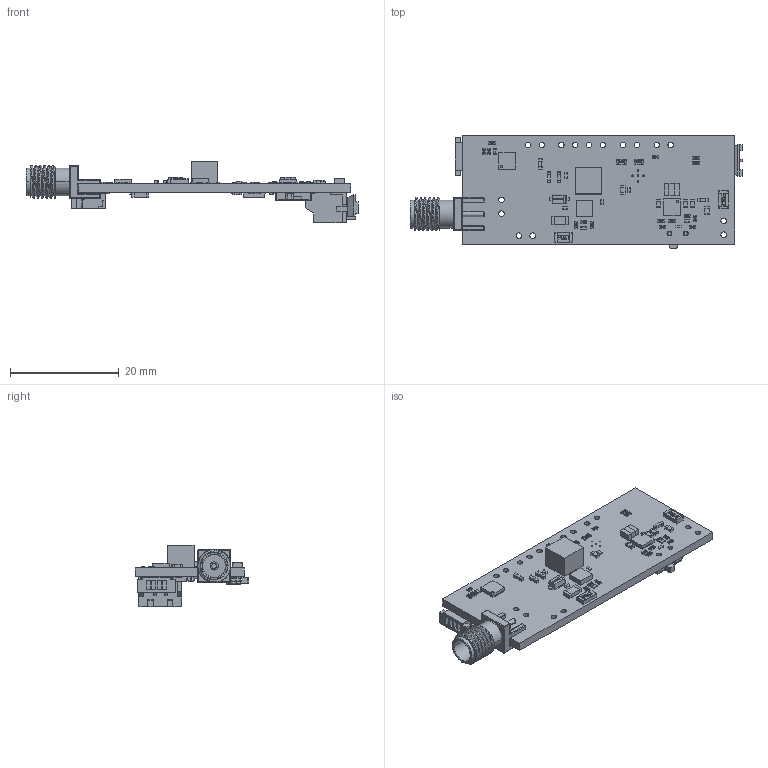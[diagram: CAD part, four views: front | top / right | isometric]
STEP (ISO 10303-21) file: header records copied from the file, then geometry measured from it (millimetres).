
FILE_DESCRIPTION(('KiCad electronic assembly'),'2;1');
FILE_NAME('WPT-02-RECEIVER_2020-03-09.step','2020-03-09T08:06:31',( 'An Author'),('A Company'),'Open CASCADE STEP processor 6.9', 'KiCad to STEP converter','Unknown');
FILE_SCHEMA(('AUTOMOTIVE_DESIGN { 1 0 10303 214 1 1 1 1 }'));
Length unit declared in the file: millimetre
Products named in the file (44): Open CASCADE STEP translator 6.9 1; QFN-20-1EP_4x4mm_Pitch0.5mm_Height1.0mm; SOLID; SOD-323; SHELL; S2B-PH-SM4-TB; PHR-2; cg0402mlc; DFN-10-1EP_3x3mm_Pitch0.5mm; QFN-16-1EP_3x3mm_Pitch0.5mm; CUS-12TB; COMPOUND; R_0402; R_0603; R_1206; DFE252012P; NR5040; C_0805; SOD-123F; SM04B-SRSS-TB; SHR-04V-S-B; C_0603; C_0402; C_1206; 620-SMA-02-112-TGG
Assembly tree (83 placements, depth 3):
  Open CASCADE STEP translator 6.9 1
    QFN-20-1EP_4x4mm_Pitch0.5mm_Height1.0mm
      SOLID
    SOD-323
      SHELL
    S2B-PH-SM4-TB
      SOLID
    PHR-2
      SOLID
    cg0402mlc
      SOLID
    DFN-10-1EP_3x3mm_Pitch0.5mm  x2
      SOLID
    QFN-16-1EP_3x3mm_Pitch0.5mm
      SOLID
    CUS-12TB
      COMPOUND
    R_0402  x18
      SOLID
    R_0603  x4
      SOLID
    R_1206  x2
      SOLID
    DFE252012P
      COMPOUND
    NR5040
      SOLID
    C_0805  x5
      SOLID
    SOD-123F
      COMPOUND
    SM04B-SRSS-TB
      SOLID
    SHR-04V-S-B
      SOLID
    C_0603  x7
      SOLID
    C_0402  x8
      SOLID
    C_1206  x2
      SOLID
    620-SMA-02-112-TGG
      SOLID
    COMPOUND
Bounding box: 60.98 x 20.85 x 11.3 mm (x, y, z)
Volume: 2353.5 mm3; surface area: 4315.9 mm2
Topology: 63 solids, 143 shells, 4100 faces, 10656 edges, 6813 vertices
Faces by surface type: plane 2619, bspline 687, cylinder 571, sphere 202, torus 17, cone 4
Full cylindrical faces by diameter (mm): 0.3 x17, 0.8 x2, 0.9 x2, 1.016 x16
Entity records: 138654 total; most frequent: CARTESIAN_POINT 49473, DIRECTION 14186, LINE 10009, VECTOR 10009, ORIENTED_EDGE 7890, PCURVE 7890, DEFINITIONAL_REPRESENTATION 7890, EDGE_CURVE 4147
